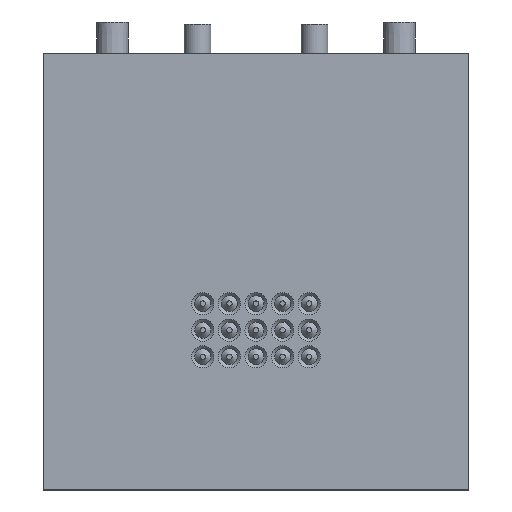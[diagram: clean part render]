
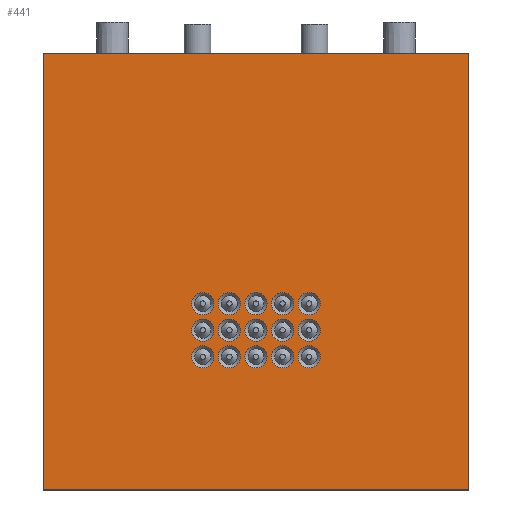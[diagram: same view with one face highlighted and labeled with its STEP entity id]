
A CAD part, top view. The second image highlights one B-rep face of the part: STEP entity #441.
In plain terms, the highlighted planar face has unit normal (0, 0, 1).
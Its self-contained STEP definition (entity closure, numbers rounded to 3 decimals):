
#441=ADVANCED_FACE('',(#1087,#1088,#1089,#1090,#1091,#1092,#1093,#1094,#1095,#1096,#1097,#1098,#1099,#1100,#1101,#1102),#1103,.F.);
#1087=FACE_BOUND('',#1988,.T.);
#1088=FACE_BOUND('',#1989,.T.);
#1089=FACE_BOUND('',#1990,.T.);
#1090=FACE_BOUND('',#1991,.T.);
#1091=FACE_BOUND('',#1992,.T.);
#1092=FACE_BOUND('',#1993,.T.);
#1093=FACE_BOUND('',#1994,.T.);
#1094=FACE_BOUND('',#1995,.T.);
#1095=FACE_BOUND('',#1996,.T.);
#1096=FACE_BOUND('',#1997,.T.);
#1097=FACE_BOUND('',#1998,.T.);
#1098=FACE_BOUND('',#1999,.T.);
#1099=FACE_BOUND('',#2000,.T.);
#1100=FACE_BOUND('',#2001,.T.);
#1101=FACE_BOUND('',#2002,.T.);
#1102=FACE_OUTER_BOUND('',#2003,.T.);
#1103=PLANE('',#2004);
#1988=EDGE_LOOP('',(#3208));
#1989=EDGE_LOOP('',(#3209));
#1990=EDGE_LOOP('',(#3210));
#1991=EDGE_LOOP('',(#3211));
#1992=EDGE_LOOP('',(#3212));
#1993=EDGE_LOOP('',(#3213));
#1994=EDGE_LOOP('',(#3214));
#1995=EDGE_LOOP('',(#3215));
#1996=EDGE_LOOP('',(#3216));
#1997=EDGE_LOOP('',(#3217));
#1998=EDGE_LOOP('',(#3218));
#1999=EDGE_LOOP('',(#3219));
#2000=EDGE_LOOP('',(#3220));
#2001=EDGE_LOOP('',(#3221));
#2002=EDGE_LOOP('',(#3222));
#2003=EDGE_LOOP('',(#3223,#3224,#3225,#3226));
#2004=AXIS2_PLACEMENT_3D('',#3227,#3228,#3229);
#3208=ORIENTED_EDGE('',*,*,#4550,.T.);
#3209=ORIENTED_EDGE('',*,*,#4774,.T.);
#3210=ORIENTED_EDGE('',*,*,#4789,.T.);
#3211=ORIENTED_EDGE('',*,*,#4672,.T.);
#3212=ORIENTED_EDGE('',*,*,#4790,.T.);
#3213=ORIENTED_EDGE('',*,*,#4688,.T.);
#3214=ORIENTED_EDGE('',*,*,#4620,.T.);
#3215=ORIENTED_EDGE('',*,*,#4791,.T.);
#3216=ORIENTED_EDGE('',*,*,#4792,.T.);
#3217=ORIENTED_EDGE('',*,*,#4603,.T.);
#3218=ORIENTED_EDGE('',*,*,#4793,.T.);
#3219=ORIENTED_EDGE('',*,*,#4794,.T.);
#3220=ORIENTED_EDGE('',*,*,#4795,.T.);
#3221=ORIENTED_EDGE('',*,*,#4617,.T.);
#3222=ORIENTED_EDGE('',*,*,#4796,.T.);
#3223=ORIENTED_EDGE('',*,*,#4725,.F.);
#3224=ORIENTED_EDGE('',*,*,#4797,.F.);
#3225=ORIENTED_EDGE('',*,*,#4798,.F.);
#3226=ORIENTED_EDGE('',*,*,#4767,.T.);
#3227=CARTESIAN_POINT('',(-20.0,-21.,13.0));
#3228=DIRECTION('',(0.0,0.0,-1.0));
#3229=DIRECTION('',(0.0,-1.0,0.0));
#4550=EDGE_CURVE('',#5285,#5285,#5286,.T.);
#4603=EDGE_CURVE('',#5367,#5367,#5368,.T.);
#4617=EDGE_CURVE('',#5391,#5391,#5392,.T.);
#4620=EDGE_CURVE('',#5396,#5396,#5397,.T.);
#4672=EDGE_CURVE('',#5479,#5479,#5480,.T.);
#4688=EDGE_CURVE('',#5505,#5505,#5506,.T.);
#4725=EDGE_CURVE('',#5565,#5566,#5567,.T.);
#4767=EDGE_CURVE('',#5626,#5566,#5627,.T.);
#4774=EDGE_CURVE('',#5637,#5637,#5638,.T.);
#4789=EDGE_CURVE('',#5656,#5656,#5657,.T.);
#4790=EDGE_CURVE('',#5658,#5658,#5659,.T.);
#4791=EDGE_CURVE('',#5660,#5660,#5661,.T.);
#4792=EDGE_CURVE('',#5662,#5662,#5663,.T.);
#4793=EDGE_CURVE('',#5664,#5664,#5665,.T.);
#4794=EDGE_CURVE('',#5666,#5666,#5667,.T.);
#4795=EDGE_CURVE('',#5668,#5668,#5669,.T.);
#4796=EDGE_CURVE('',#5670,#5670,#5671,.T.);
#4797=EDGE_CURVE('',#5672,#5565,#5673,.T.);
#4798=EDGE_CURVE('',#5626,#5672,#5674,.T.);
#5285=VERTEX_POINT('',#6341);
#5286=CIRCLE('',#6342,1.05);
#5367=VERTEX_POINT('',#6454);
#5368=CIRCLE('',#6455,1.05);
#5391=VERTEX_POINT('',#6484);
#5392=CIRCLE('',#6485,1.05);
#5396=VERTEX_POINT('',#6489);
#5397=CIRCLE('',#6490,1.05);
#5479=VERTEX_POINT('',#6596);
#5480=CIRCLE('',#6597,1.05);
#5505=VERTEX_POINT('',#6622);
#5506=CIRCLE('',#6623,1.05);
#5565=VERTEX_POINT('',#6697);
#5566=VERTEX_POINT('',#6698);
#5567=LINE('',#6699,#6700);
#5626=VERTEX_POINT('',#6781);
#5627=LINE('',#6782,#6783);
#5637=VERTEX_POINT('',#6794);
#5638=CIRCLE('',#6795,1.05);
#5656=VERTEX_POINT('',#6815);
#5657=CIRCLE('',#6816,1.05);
#5658=VERTEX_POINT('',#6817);
#5659=CIRCLE('',#6818,1.05);
#5660=VERTEX_POINT('',#6819);
#5661=CIRCLE('',#6820,1.05);
#5662=VERTEX_POINT('',#6821);
#5663=CIRCLE('',#6822,1.05);
#5664=VERTEX_POINT('',#6823);
#5665=CIRCLE('',#6824,1.05);
#5666=VERTEX_POINT('',#6825);
#5667=CIRCLE('',#6826,1.05);
#5668=VERTEX_POINT('',#6827);
#5669=CIRCLE('',#6828,1.05);
#5670=VERTEX_POINT('',#6829);
#5671=CIRCLE('',#6830,1.05);
#5672=VERTEX_POINT('',#6831);
#5673=LINE('',#6832,#6833);
#5674=LINE('',#6834,#6835);
#6341=CARTESIAN_POINT('',(-3.95,-26.,13.0));
#6342=AXIS2_PLACEMENT_3D('',#7622,#7623,#7624);
#6454=CARTESIAN_POINT('',(6.05,-26.,13.0));
#6455=AXIS2_PLACEMENT_3D('',#7683,#7684,#7685);
#6484=CARTESIAN_POINT('',(-1.45,-23.5,13.0));
#6485=AXIS2_PLACEMENT_3D('',#7701,#7702,#7703);
#6489=CARTESIAN_POINT('',(3.55,-28.5,13.0));
#6490=AXIS2_PLACEMENT_3D('',#7707,#7708,#7709);
#6596=CARTESIAN_POINT('',(-1.45,-26.,13.0));
#6597=AXIS2_PLACEMENT_3D('',#7770,#7771,#7772);
#6622=CARTESIAN_POINT('',(1.05,-28.5,13.0));
#6623=AXIS2_PLACEMENT_3D('',#7800,#7801,#7802);
#6697=CARTESIAN_POINT('',(-20.0,-41.,13.0));
#6698=CARTESIAN_POINT('',(-20.0,0.,13.0));
#6699=CARTESIAN_POINT('',(-20.0,-41.,13.0));
#6700=VECTOR('',#7845,1.0);
#6781=CARTESIAN_POINT('',(20.0,0.,13.0));
#6782=CARTESIAN_POINT('',(20.0,0.,13.0));
#6783=VECTOR('',#7892,1.0);
#6794=CARTESIAN_POINT('',(-3.95,-28.5,13.0));
#6795=AXIS2_PLACEMENT_3D('',#7903,#7904,#7905);
#6815=CARTESIAN_POINT('',(-1.45,-28.5,13.0));
#6816=AXIS2_PLACEMENT_3D('',#7917,#7918,#7919);
#6817=CARTESIAN_POINT('',(1.05,-26.,13.0));
#6818=AXIS2_PLACEMENT_3D('',#7920,#7921,#7922);
#6819=CARTESIAN_POINT('',(6.05,-28.5,13.0));
#6820=AXIS2_PLACEMENT_3D('',#7923,#7924,#7925);
#6821=CARTESIAN_POINT('',(3.55,-26.,13.0));
#6822=AXIS2_PLACEMENT_3D('',#7926,#7927,#7928);
#6823=CARTESIAN_POINT('',(6.05,-23.5,13.0));
#6824=AXIS2_PLACEMENT_3D('',#7929,#7930,#7931);
#6825=CARTESIAN_POINT('',(3.55,-23.5,13.0));
#6826=AXIS2_PLACEMENT_3D('',#7932,#7933,#7934);
#6827=CARTESIAN_POINT('',(1.05,-23.5,13.0));
#6828=AXIS2_PLACEMENT_3D('',#7935,#7936,#7937);
#6829=CARTESIAN_POINT('',(-3.95,-23.5,13.0));
#6830=AXIS2_PLACEMENT_3D('',#7938,#7939,#7940);
#6831=CARTESIAN_POINT('',(20.0,-41.,13.0));
#6832=CARTESIAN_POINT('',(20.0,-41.,13.0));
#6833=VECTOR('',#7941,1.0);
#6834=CARTESIAN_POINT('',(20.0,-21.,13.0));
#6835=VECTOR('',#7942,1.0);
#7622=CARTESIAN_POINT('',(-5.0,-26.,13.0));
#7623=DIRECTION('',(0.0,0.0,-1.0));
#7624=DIRECTION('',(1.0,0.0,0.0));
#7683=CARTESIAN_POINT('',(5.0,-26.,13.0));
#7684=DIRECTION('',(0.0,0.0,-1.0));
#7685=DIRECTION('',(1.0,0.0,0.0));
#7701=CARTESIAN_POINT('',(-2.5,-23.5,13.0));
#7702=DIRECTION('',(0.0,0.0,-1.0));
#7703=DIRECTION('',(1.0,0.0,0.0));
#7707=CARTESIAN_POINT('',(2.5,-28.5,13.0));
#7708=DIRECTION('',(0.0,0.0,-1.0));
#7709=DIRECTION('',(1.0,0.0,0.0));
#7770=CARTESIAN_POINT('',(-2.5,-26.,13.0));
#7771=DIRECTION('',(0.0,0.0,-1.0));
#7772=DIRECTION('',(1.0,0.0,0.0));
#7800=CARTESIAN_POINT('',(0.,-28.5,13.0));
#7801=DIRECTION('',(0.0,0.0,-1.0));
#7802=DIRECTION('',(1.0,0.0,0.0));
#7845=DIRECTION('',(0.0,1.0,0.0));
#7892=DIRECTION('',(-1.0,0.0,0.0));
#7903=CARTESIAN_POINT('',(-5.0,-28.5,13.0));
#7904=DIRECTION('',(0.0,0.0,-1.0));
#7905=DIRECTION('',(1.0,0.0,0.0));
#7917=CARTESIAN_POINT('',(-2.5,-28.5,13.0));
#7918=DIRECTION('',(0.0,0.0,-1.0));
#7919=DIRECTION('',(1.0,0.0,0.0));
#7920=CARTESIAN_POINT('',(0.,-26.,13.0));
#7921=DIRECTION('',(0.0,0.0,-1.0));
#7922=DIRECTION('',(1.0,0.0,0.0));
#7923=CARTESIAN_POINT('',(5.0,-28.5,13.0));
#7924=DIRECTION('',(0.0,0.0,-1.0));
#7925=DIRECTION('',(1.0,0.0,0.0));
#7926=CARTESIAN_POINT('',(2.5,-26.,13.0));
#7927=DIRECTION('',(0.0,0.0,-1.0));
#7928=DIRECTION('',(1.0,0.0,0.0));
#7929=CARTESIAN_POINT('',(5.0,-23.5,13.0));
#7930=DIRECTION('',(0.0,0.0,-1.0));
#7931=DIRECTION('',(1.0,0.0,0.0));
#7932=CARTESIAN_POINT('',(2.5,-23.5,13.0));
#7933=DIRECTION('',(0.0,0.0,-1.0));
#7934=DIRECTION('',(1.0,0.0,0.0));
#7935=CARTESIAN_POINT('',(0.,-23.5,13.0));
#7936=DIRECTION('',(0.0,0.0,-1.0));
#7937=DIRECTION('',(1.0,0.0,0.0));
#7938=CARTESIAN_POINT('',(-5.0,-23.5,13.0));
#7939=DIRECTION('',(0.0,0.0,-1.0));
#7940=DIRECTION('',(1.0,0.0,0.0));
#7941=DIRECTION('',(-1.0,0.0,0.0));
#7942=DIRECTION('',(0.0,-1.0,0.0));
